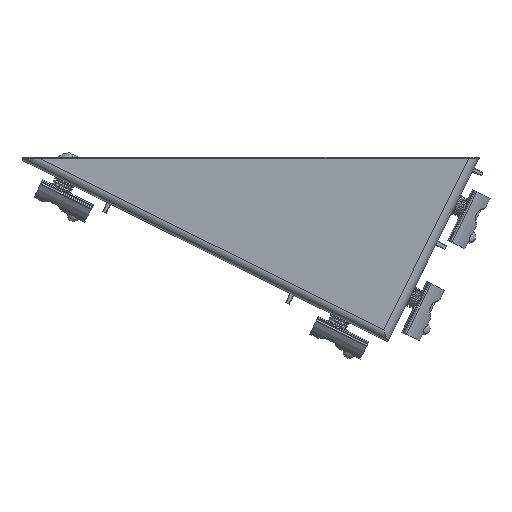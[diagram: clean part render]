
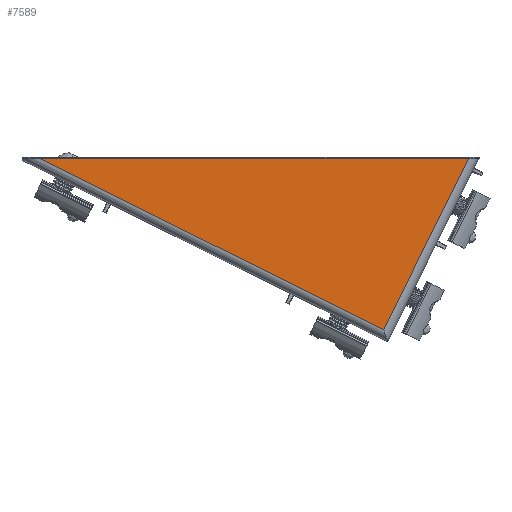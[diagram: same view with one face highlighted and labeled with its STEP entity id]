
A CAD part, top view. The second image highlights one B-rep face of the part: STEP entity #7589.
In plain terms, the highlighted planar face has unit normal (0, -0.001, 1).
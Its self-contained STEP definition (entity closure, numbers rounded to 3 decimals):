
#365 = FACE_OUTER_BOUND ( 'NONE', #3537, .T. ) ;
#603 = ORIENTED_EDGE ( 'NONE', *, *, #25019, .T. ) ;
#3537 = EDGE_LOOP ( 'NONE', ( #32421, #28874, #603 ) ) ;
#4513 = CARTESIAN_POINT ( 'NONE',  ( -22.48, -72.099, 19.799 ) ) ;
#7589 = ADVANCED_FACE ( 'NONE', ( #365 ), #21416, .F. ) ;
#9263 = CARTESIAN_POINT ( 'NONE',  ( -82.436, -0.5, 19.898 ) ) ;
#10980 = CARTESIAN_POINT ( 'NONE',  ( 86.541, 1.563, 19.901 ) ) ;
#11624 = VECTOR ( 'NONE', #31898, 1000. ) ;
#12171 = VERTEX_POINT ( 'NONE', #20881 ) ;
#15539 = AXIS2_PLACEMENT_3D ( 'NONE', #4513, #23996, #26558 ) ;
#16780 = VECTOR ( 'NONE', #17201, 1000. ) ;
#17090 = LINE ( 'NONE', #32710, #32268 ) ;
#17201 = DIRECTION ( 'NONE',  ( 0.896, -0.445, -0.001 ) ) ;
#17540 = CARTESIAN_POINT ( 'NONE',  ( 55.462, -68.952, 19.803 ) ) ;
#19615 = LINE ( 'NONE', #17540, #16780 ) ;
#20881 = CARTESIAN_POINT ( 'NONE',  ( 85.517, -0.5, 19.898 ) ) ;
#21416 = PLANE ( 'NONE',  #15539 ) ;
#23996 = DIRECTION ( 'NONE',  ( 0., 0.001, -1. ) ) ;
#25019 = EDGE_CURVE ( 'NONE', #29382, #12171, #29163, .T. ) ;
#26558 = DIRECTION ( 'NONE',  ( -1., 0., 0. ) ) ;
#28874 = ORIENTED_EDGE ( 'NONE', *, *, #29631, .T. ) ;
#29163 = LINE ( 'NONE', #10980, #11624 ) ;
#29382 = VERTEX_POINT ( 'NONE', #33204 ) ;
#29631 = EDGE_CURVE ( 'NONE', #32917, #29382, #19615, .T. ) ;
#30475 = DIRECTION ( 'NONE',  ( 1., 0., 0. ) ) ;
#31898 = DIRECTION ( 'NONE',  ( 0.445, 0.896, 0.001 ) ) ;
#32268 = VECTOR ( 'NONE', #30475, 1000. ) ;
#32421 = ORIENTED_EDGE ( 'NONE', *, *, #33240, .F. ) ;
#32710 = CARTESIAN_POINT ( 'NONE',  ( -22.48, -0.5, 19.898 ) ) ;
#32917 = VERTEX_POINT ( 'NONE', #9263 ) ;
#33204 = CARTESIAN_POINT ( 'NONE',  ( 52.313, -67.389, 19.805 ) ) ;
#33240 = EDGE_CURVE ( 'NONE', #32917, #12171, #17090, .T. ) ;
